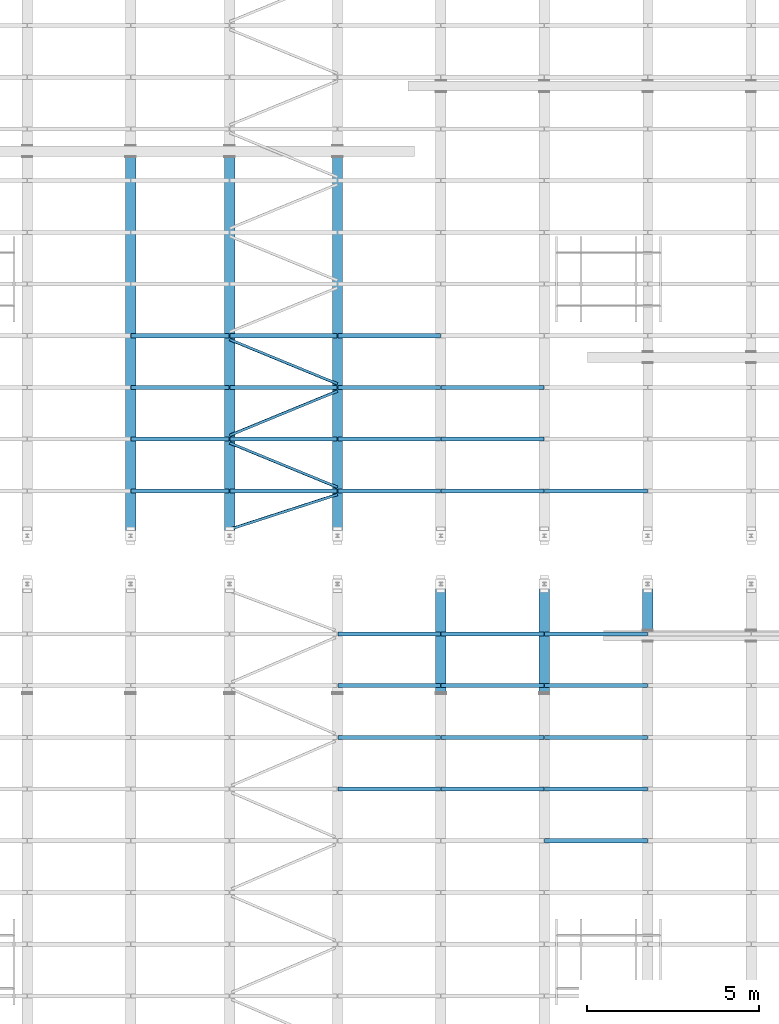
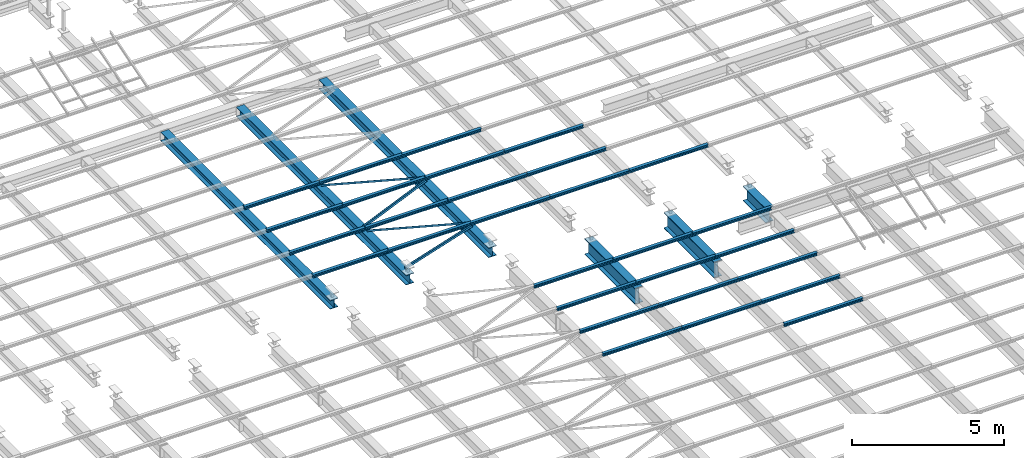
# One storey, part 58 of 139: 39 beams.
"""IFC2X3 building model written with IfcOpenShell, lengths in metres."""

from ifc_helpers import new_model, entity, si_unit, converted_unit, derived_unit, frame, origin, place, context, subcontext, project, spatial, polyline, outline, extrude, material, element, save


model = new_model("IFC2X3")

# Units and contexts
model_context = context("Model", 3, precision=1e-05, world=origin())
body_context = subcontext(model_context, "Body", "Model", "MODEL_VIEW")
ifc_project = project(units=[si_unit("LENGTHUNIT", "METRE"), si_unit("AREAUNIT", "SQUARE_METRE"), si_unit("VOLUMEUNIT", "CUBIC_METRE"), si_unit("MASSUNIT", "GRAM", prefix="KILO"), converted_unit("PLANEANGLEUNIT", "DEGREE", entity("IfcPlaneAngleMeasure", 0.0174532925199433), si_unit("PLANEANGLEUNIT", "RADIAN"), dimensions=[0, 0, 0, 0, 0, 0, 0]), derived_unit("THERMALTRANSMITTANCEUNIT", [(si_unit("POWERUNIT", "WATT"), 1), (si_unit("THERMODYNAMICTEMPERATUREUNIT", "KELVIN"), -1), (si_unit("LENGTHUNIT", "METRE"), -2)]), derived_unit("VOLUMETRICFLOWRATEUNIT", [(si_unit("LENGTHUNIT", "METRE"), 3), (converted_unit("TIMEUNIT", "hour", entity("IfcTimeMeasure", 3600.0), si_unit("TIMEUNIT", "SECOND"), dimensions=[0, 0, 1, 0, 0, 0, 0]), -1), (si_unit("LENGTHUNIT", "METRE"), -1)])], contexts=[model_context])

# Site, building, storey
site_placement = place(None, origin())
site = spatial("IfcSite", under=ifc_project, at=site_placement, Name="TWP_Speiseverteilzentrum SBW VZ II", CompositionType="ELEMENT")
building_placement = place(site_placement, origin())
building = spatial("IfcBuilding", under=site, at=building_placement, Name="Speiseverteilzentrum SBW VZ II", CompositionType="ELEMENT")
storey_placement = place(building_placement, frame((0.0, 0.0, 7.1307)))
storey = spatial("IfcBuildingStorey", under=building, at=storey_placement, Name="Wartung_FFB", CompositionType="ELEMENT", Elevation=7.1307)

# Beams
ifc_material_1 = material(Name="S235")
beam_1_placement = place(storey_placement, frame((43.0500000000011, 63.2824932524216, -0.365), z_axis=(0.0, 0.0, 1.0), x_axis=(-1.0, 0.0, 0.0)))
element("IfcBeam", 1, at=beam_1_placement, inside=storey, material=ifc_material_1, Name="Stahlträger", context=body_context, shape_type="SweptSolid", body=[
    extrude(outline(polyline([(-0.15, 0.175), (-0.15, 0.1575), (-0.00500000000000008, 0.1575), (-0.0050000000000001, -0.1575), (-0.15, -0.1575), (-0.15, -0.175), (0.15, -0.175), (0.15, -0.1575), (0.0049999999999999, -0.1575), (0.00499999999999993, 0.1575), (0.15, 0.1575), (0.15, 0.175), (-0.15, 0.175)])), frame((0.0, 0.0, 0.0), z_axis=(0.0, 1.0, 0.0), x_axis=(-1.0, 0.0, 0.0)), (0.0, 0.0, 1.0), 11.1324932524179),
])
ifc_material_2 = material(Name="S235")
beam_2_placement = place(storey_placement, frame((49.0500000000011, 52.1500000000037, -0.385), z_axis=(0.0, 0.0, 1.0), x_axis=(1.0, -2.44929359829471e-16, 0.0)))
element("IfcBeam", 2, at=beam_2_placement, inside=storey, material=ifc_material_2, Name="Stahlträger", context=body_context, shape_type="SweptSolid", body=[
    extrude(outline(polyline([(-0.15, 0.195), (-0.15, 0.176), (-0.00550000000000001, 0.176), (-0.00550000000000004, -0.176), (-0.15, -0.176), (-0.15, -0.195), (0.15, -0.195), (0.15, -0.176), (0.00549999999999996, -0.176), (0.00549999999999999, 0.176), (0.15, 0.176), (0.15, 0.195), (-0.15, 0.195)])), frame((0.0, 0.0, 0.0), z_axis=(0.0, 1.0, 0.0), x_axis=(-1.0, 0.0, 0.0)), (0.0, 0.0, 1.0), 11.1324932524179),
])
ifc_material_3 = material(Name="S235")
beam_3_placement = place(storey_placement, frame((45.9200000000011, 52.1500000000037, -0.385), z_axis=(0.0, 0.0, 1.0), x_axis=(1.0, -2.44929359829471e-16, 0.0)))
element("IfcBeam", 3, at=beam_3_placement, inside=storey, material=ifc_material_3, Name="Stahlträger", context=body_context, shape_type="SweptSolid", body=[
    extrude(outline(polyline([(-0.15, 0.195), (-0.15, 0.176), (-0.00550000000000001, 0.176), (-0.00550000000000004, -0.176), (-0.15, -0.176), (-0.15, -0.195), (0.15, -0.195), (0.15, -0.176), (0.00549999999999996, -0.176), (0.00549999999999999, 0.176), (0.15, 0.176), (0.15, 0.195), (-0.15, 0.195)])), frame((0.0, 0.0, 0.0), z_axis=(0.0, 1.0, 0.0), x_axis=(-1.0, 0.0, 0.0)), (0.0, 0.0, 1.0), 11.1324932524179),
])
ifc_material_4 = material(Name="S235")
beam_4_placement = place(storey_placement, frame((52.0500000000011, 51.0500000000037, -0.51), z_axis=(0.0, 0.0, 1.0), x_axis=(-1.0, 0.0, 0.0)))
element("IfcBeam", 4, at=beam_4_placement, inside=storey, material=ifc_material_4, Name="Stahlträger", context=body_context, shape_type="SweptSolid", body=[
    extrude(outline(polyline([(-0.15, 0.32), (-0.15, 0.294), (-0.00675000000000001, 0.294), (-0.00675000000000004, -0.294), (-0.15, -0.294), (-0.15, -0.32), (0.15, -0.32), (0.15, -0.294), (0.00674999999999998, -0.294), (0.00675000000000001, 0.294), (0.15, 0.294), (0.15, 0.32), (-0.15, 0.32)])), frame((0.0, 0.0, 0.0), z_axis=(0.0, 1.0, 0.0), x_axis=(-1.0, 0.0, 0.0)), (0.0, 0.0, 1.0), 3.2979257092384),
])
ifc_material_5 = material(Name="S235")
beam_5_placement = place(storey_placement, frame((55.0500000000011, 51.0500000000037, -0.51), z_axis=(0.0, 0.0, 1.0), x_axis=(-1.0, 0.0, 0.0)))
element("IfcBeam", 5, at=beam_5_placement, inside=storey, material=ifc_material_5, Name="Stahlträger", context=body_context, shape_type="SweptSolid", body=[
    extrude(outline(polyline([(-0.15, 0.32), (-0.15, 0.294), (-0.00675000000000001, 0.294), (-0.00675000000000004, -0.294), (-0.15, -0.294), (-0.15, -0.32), (0.15, -0.32), (0.15, -0.294), (0.00674999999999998, -0.294), (0.00675000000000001, 0.294), (0.15, 0.294), (0.15, 0.32), (-0.15, 0.32)])), frame((0.0, 0.0, 0.0), z_axis=(0.0, 1.0, 0.0), x_axis=(-1.0, 0.0, 0.0)), (0.0, 0.0, 1.0), 3.2979257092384),
])
ifc_material_6 = material(Name="S235")
beam_6_placement = place(storey_placement, frame((58.0500000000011, 51.0500000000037, -0.485), z_axis=(0.0, 0.0, 1.0), x_axis=(-1.0, 0.0, 0.0)))
element("IfcBeam", 6, at=beam_6_placement, inside=storey, material=ifc_material_6, Name="Stahlträger", context=body_context, shape_type="SweptSolid", body=[
    extrude(outline(polyline([(-0.15, 0.295), (-0.15, 0.27), (-0.0065, 0.27), (-0.00650000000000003, -0.27), (-0.15, -0.27), (-0.15, -0.295), (0.15, -0.295), (0.15, -0.27), (0.00649999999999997, -0.27), (0.00650000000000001, 0.27), (0.15, 0.27), (0.15, 0.295), (-0.15, 0.295)])), frame((0.0, 0.0, 0.0), z_axis=(0.0, 1.0, 0.0), x_axis=(-1.0, 0.0, 0.0)), (0.0, 0.0, 1.0), 1.47527922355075),
])
ifc_material_7 = material(Name="S235")
beam_7_placement = place(storey_placement, frame((49.0600000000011, 58.1011263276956, -0.133), z_axis=(0.0, 0.0, 1.0), x_axis=(0.0, -1.0, 0.0)))
element("IfcBeam", 7, at=beam_7_placement, inside=storey, material=ifc_material_7, Name="Nebenträger", context=body_context, shape_type="SweptSolid", body=[
    extrude(outline(polyline([(-0.06, 0.0570000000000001), (-0.06, 0.0490000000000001), (-0.00249999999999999, 0.0490000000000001), (-0.0025, -0.0489999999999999), (-0.06, -0.0489999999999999), (-0.06, -0.0569999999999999), (0.06, -0.0569999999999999), (0.06, -0.0489999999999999), (0.0025, -0.0489999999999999), (0.00250000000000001, 0.0490000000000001), (0.06, 0.0490000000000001), (0.06, 0.0570000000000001), (-0.06, 0.0570000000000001)])), frame((0.0, 0.0, 0.0), z_axis=(0.0, 1.0, 0.0), x_axis=(-1.0, 0.0, 0.0)), (0.0, 0.0, 1.0), 2.98),
])
ifc_material_8 = material(Name="S235")
beam_8_placement = place(storey_placement, frame((49.0600000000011, 56.6011263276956, -0.133), z_axis=(0.0, 0.0, 1.0), x_axis=(0.0, -1.0, 0.0)))
element("IfcBeam", 8, at=beam_8_placement, inside=storey, material=ifc_material_8, Name="Nebenträger", context=body_context, shape_type="SweptSolid", body=[
    extrude(outline(polyline([(-0.06, 0.0570000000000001), (-0.06, 0.0490000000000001), (-0.00249999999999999, 0.0490000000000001), (-0.0025, -0.0489999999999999), (-0.06, -0.0489999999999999), (-0.06, -0.0569999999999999), (0.06, -0.0569999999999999), (0.06, -0.0489999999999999), (0.0025, -0.0489999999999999), (0.00250000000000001, 0.0490000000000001), (0.06, 0.0490000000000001), (0.06, 0.0570000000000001), (-0.06, 0.0570000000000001)])), frame((0.0, 0.0, 0.0), z_axis=(0.0, 1.0, 0.0), x_axis=(-1.0, 0.0, 0.0)), (0.0, 0.0, 1.0), 2.98),
])
ifc_material_9 = material(Name="S235")
beam_9_placement = place(storey_placement, frame((52.0600000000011, 56.6011263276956, -0.133), z_axis=(0.0, 0.0, 1.0), x_axis=(0.0, -1.0, 0.0)))
element("IfcBeam", 9, at=beam_9_placement, inside=storey, material=ifc_material_9, Name="Nebenträger", context=body_context, shape_type="SweptSolid", body=[
    extrude(outline(polyline([(-0.06, 0.0570000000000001), (-0.06, 0.0490000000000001), (-0.00249999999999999, 0.0490000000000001), (-0.0025, -0.0489999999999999), (-0.06, -0.0489999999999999), (-0.06, -0.0569999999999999), (0.06, -0.0569999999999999), (0.06, -0.0489999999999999), (0.0025, -0.0489999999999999), (0.00250000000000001, 0.0490000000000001), (0.06, 0.0490000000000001), (0.06, 0.0570000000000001), (-0.06, 0.0570000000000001)])), frame((0.0, 0.0, 0.0), z_axis=(0.0, 1.0, 0.0), x_axis=(-1.0, 0.0, 0.0)), (0.0, 0.0, 1.0), 2.98),
])
ifc_material_10 = material(Name="S235")
beam_10_placement = place(storey_placement, frame((49.0600000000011, 55.1011263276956, -0.133), z_axis=(0.0, 0.0, 1.0), x_axis=(0.0, -1.0, 0.0)))
element("IfcBeam", 10, at=beam_10_placement, inside=storey, material=ifc_material_10, Name="Nebenträger", context=body_context, shape_type="SweptSolid", body=[
    extrude(outline(polyline([(-0.06, 0.0570000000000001), (-0.06, 0.0490000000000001), (-0.00249999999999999, 0.0490000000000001), (-0.0025, -0.0489999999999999), (-0.06, -0.0489999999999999), (-0.06, -0.0569999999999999), (0.06, -0.0569999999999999), (0.06, -0.0489999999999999), (0.0025, -0.0489999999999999), (0.00250000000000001, 0.0490000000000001), (0.06, 0.0490000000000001), (0.06, 0.0570000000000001), (-0.06, 0.0570000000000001)])), frame((0.0, 0.0, 0.0), z_axis=(0.0, 1.0, 0.0), x_axis=(-1.0, 0.0, 0.0)), (0.0, 0.0, 1.0), 2.98),
])
ifc_material_11 = material(Name="S235")
beam_11_placement = place(storey_placement, frame((52.0600000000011, 55.1011263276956, -0.133), z_axis=(0.0, 0.0, 1.0), x_axis=(0.0, -1.0, 0.0)))
element("IfcBeam", 11, at=beam_11_placement, inside=storey, material=ifc_material_11, Name="Nebenträger", context=body_context, shape_type="SweptSolid", body=[
    extrude(outline(polyline([(-0.06, 0.0570000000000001), (-0.06, 0.0490000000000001), (-0.00249999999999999, 0.0490000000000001), (-0.0025, -0.0489999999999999), (-0.06, -0.0489999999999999), (-0.06, -0.0569999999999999), (0.06, -0.0569999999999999), (0.06, -0.0489999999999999), (0.0025, -0.0489999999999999), (0.00250000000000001, 0.0490000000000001), (0.06, 0.0490000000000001), (0.06, 0.0570000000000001), (-0.06, 0.0570000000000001)])), frame((0.0, 0.0, 0.0), z_axis=(0.0, 1.0, 0.0), x_axis=(-1.0, 0.0, 0.0)), (0.0, 0.0, 1.0), 2.98),
])
ifc_material_12 = material(Name="S235")
beam_12_placement = place(storey_placement, frame((49.0600000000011, 53.6011263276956, -0.133), z_axis=(0.0, 0.0, 1.0), x_axis=(0.0, -1.0, 0.0)))
element("IfcBeam", 12, at=beam_12_placement, inside=storey, material=ifc_material_12, Name="Nebenträger", context=body_context, shape_type="SweptSolid", body=[
    extrude(outline(polyline([(-0.06, 0.0570000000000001), (-0.06, 0.0490000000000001), (-0.00249999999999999, 0.0490000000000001), (-0.0025, -0.0489999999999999), (-0.06, -0.0489999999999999), (-0.06, -0.0569999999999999), (0.06, -0.0569999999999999), (0.06, -0.0489999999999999), (0.0025, -0.0489999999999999), (0.00250000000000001, 0.0490000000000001), (0.06, 0.0490000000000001), (0.06, 0.0570000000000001), (-0.06, 0.0570000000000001)])), frame((0.0, 0.0, 0.0), z_axis=(0.0, 1.0, 0.0), x_axis=(-1.0, 0.0, 0.0)), (0.0, 0.0, 1.0), 2.98),
])
ifc_material_13 = material(Name="S235")
beam_13_placement = place(storey_placement, frame((52.0600000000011, 53.6011263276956, -0.133), z_axis=(0.0, 0.0, 1.0), x_axis=(0.0, -1.0, 0.0)))
element("IfcBeam", 13, at=beam_13_placement, inside=storey, material=ifc_material_13, Name="Nebenträger", context=body_context, shape_type="SweptSolid", body=[
    extrude(outline(polyline([(-0.06, 0.0570000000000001), (-0.06, 0.0490000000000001), (-0.00249999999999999, 0.0490000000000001), (-0.0025, -0.0489999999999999), (-0.06, -0.0489999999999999), (-0.06, -0.0569999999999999), (0.06, -0.0569999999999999), (0.06, -0.0489999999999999), (0.0025, -0.0489999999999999), (0.00250000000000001, 0.0490000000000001), (0.06, 0.0490000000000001), (0.06, 0.0570000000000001), (-0.06, 0.0570000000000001)])), frame((0.0, 0.0, 0.0), z_axis=(0.0, 1.0, 0.0), x_axis=(-1.0, 0.0, 0.0)), (0.0, 0.0, 1.0), 2.98),
])
ifc_material_14 = material(Name="S235")
beam_14_placement = place(storey_placement, frame((55.0600000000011, 53.6011263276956, -0.133), z_axis=(0.0, 0.0, 1.0), x_axis=(0.0, -1.0, 0.0)))
element("IfcBeam", 14, at=beam_14_placement, inside=storey, material=ifc_material_14, Name="Nebenträger", context=body_context, shape_type="SweptSolid", body=[
    extrude(outline(polyline([(-0.06, 0.0570000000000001), (-0.06, 0.0490000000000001), (-0.00249999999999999, 0.0490000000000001), (-0.0025, -0.0489999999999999), (-0.06, -0.0489999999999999), (-0.06, -0.0569999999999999), (0.06, -0.0569999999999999), (0.06, -0.0489999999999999), (0.0025, -0.0489999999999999), (0.00250000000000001, 0.0490000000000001), (0.06, 0.0490000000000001), (0.06, 0.0570000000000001), (-0.06, 0.0570000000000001)])), frame((0.0, 0.0, 0.0), z_axis=(0.0, 1.0, 0.0), x_axis=(-1.0, 0.0, 0.0)), (0.0, 0.0, 1.0), 2.98),
])
ifc_material_15 = material(Name="S235")
beam_15_placement = place(storey_placement, frame((49.0600000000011, 49.4500000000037, -0.133), z_axis=(0.0, 0.0, 1.0), x_axis=(0.0, -1.0, 0.0)))
element("IfcBeam", 15, at=beam_15_placement, inside=storey, material=ifc_material_15, Name="Nebenträger", context=body_context, shape_type="SweptSolid", body=[
    extrude(outline(polyline([(-0.06, 0.0570000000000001), (-0.06, 0.0490000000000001), (-0.00249999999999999, 0.0490000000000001), (-0.0025, -0.0489999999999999), (-0.06, -0.0489999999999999), (-0.06, -0.0569999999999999), (0.06, -0.0569999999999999), (0.06, -0.0489999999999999), (0.0025, -0.0489999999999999), (0.00250000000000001, 0.0490000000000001), (0.06, 0.0490000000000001), (0.06, 0.0570000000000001), (-0.06, 0.0570000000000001)])), frame((0.0, 0.0, 0.0), z_axis=(0.0, 1.0, 0.0), x_axis=(-1.0, 0.0, 0.0)), (0.0, 0.0, 1.0), 2.98),
])
ifc_material_16 = material(Name="S235")
beam_16_placement = place(storey_placement, frame((52.0600000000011, 49.4500000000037, -0.133), z_axis=(0.0, 0.0, 1.0), x_axis=(0.0, -1.0, 0.0)))
element("IfcBeam", 16, at=beam_16_placement, inside=storey, material=ifc_material_16, Name="Nebenträger", context=body_context, shape_type="SweptSolid", body=[
    extrude(outline(polyline([(-0.06, 0.0570000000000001), (-0.06, 0.0490000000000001), (-0.00249999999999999, 0.0490000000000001), (-0.0025, -0.0489999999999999), (-0.06, -0.0489999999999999), (-0.06, -0.0569999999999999), (0.06, -0.0569999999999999), (0.06, -0.0489999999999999), (0.0025, -0.0489999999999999), (0.00250000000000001, 0.0490000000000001), (0.06, 0.0490000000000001), (0.06, 0.0570000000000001), (-0.06, 0.0570000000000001)])), frame((0.0, 0.0, 0.0), z_axis=(0.0, 1.0, 0.0), x_axis=(-1.0, 0.0, 0.0)), (0.0, 0.0, 1.0), 2.98),
])
ifc_material_17 = material(Name="S235")
beam_17_placement = place(storey_placement, frame((55.0600000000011, 49.4500000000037, -0.133), z_axis=(0.0, 0.0, 1.0), x_axis=(0.0, -1.0, 0.0)))
element("IfcBeam", 17, at=beam_17_placement, inside=storey, material=ifc_material_17, Name="Nebenträger", context=body_context, shape_type="SweptSolid", body=[
    extrude(outline(polyline([(-0.06, 0.0570000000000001), (-0.06, 0.0490000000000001), (-0.00249999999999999, 0.0490000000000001), (-0.0025, -0.0489999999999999), (-0.06, -0.0489999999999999), (-0.06, -0.0569999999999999), (0.06, -0.0569999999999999), (0.06, -0.0489999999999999), (0.0025, -0.0489999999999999), (0.00250000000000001, 0.0490000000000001), (0.06, 0.0490000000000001), (0.06, 0.0570000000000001), (-0.06, 0.0570000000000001)])), frame((0.0, 0.0, 0.0), z_axis=(0.0, 1.0, 0.0), x_axis=(-1.0, 0.0, 0.0)), (0.0, 0.0, 1.0), 2.98),
])
ifc_material_18 = material(Name="S235")
beam_18_placement = place(storey_placement, frame((49.0600000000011, 47.9500000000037, -0.133), z_axis=(0.0, 0.0, 1.0), x_axis=(0.0, -1.0, 0.0)))
element("IfcBeam", 18, at=beam_18_placement, inside=storey, material=ifc_material_18, Name="Nebenträger", context=body_context, shape_type="SweptSolid", body=[
    extrude(outline(polyline([(-0.06, 0.0570000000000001), (-0.06, 0.0490000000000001), (-0.00249999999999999, 0.0490000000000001), (-0.0025, -0.0489999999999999), (-0.06, -0.0489999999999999), (-0.06, -0.0569999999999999), (0.06, -0.0569999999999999), (0.06, -0.0489999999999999), (0.0025, -0.0489999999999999), (0.00250000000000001, 0.0490000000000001), (0.06, 0.0490000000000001), (0.06, 0.0570000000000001), (-0.06, 0.0570000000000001)])), frame((0.0, 0.0, 0.0), z_axis=(0.0, 1.0, 0.0), x_axis=(-1.0, 0.0, 0.0)), (0.0, 0.0, 1.0), 2.98),
])
ifc_material_19 = material(Name="S235")
beam_19_placement = place(storey_placement, frame((52.0600000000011, 47.9500000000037, -0.133), z_axis=(0.0, 0.0, 1.0), x_axis=(0.0, -1.0, 0.0)))
element("IfcBeam", 19, at=beam_19_placement, inside=storey, material=ifc_material_19, Name="Nebenträger", context=body_context, shape_type="SweptSolid", body=[
    extrude(outline(polyline([(-0.06, 0.0570000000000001), (-0.06, 0.0490000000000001), (-0.00249999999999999, 0.0490000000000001), (-0.0025, -0.0489999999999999), (-0.06, -0.0489999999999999), (-0.06, -0.0569999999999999), (0.06, -0.0569999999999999), (0.06, -0.0489999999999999), (0.0025, -0.0489999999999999), (0.00250000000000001, 0.0490000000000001), (0.06, 0.0490000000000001), (0.06, 0.0570000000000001), (-0.06, 0.0570000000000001)])), frame((0.0, 0.0, 0.0), z_axis=(0.0, 1.0, 0.0), x_axis=(-1.0, 0.0, 0.0)), (0.0, 0.0, 1.0), 2.98),
])
ifc_material_20 = material(Name="S235")
beam_20_placement = place(storey_placement, frame((55.0600000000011, 47.9500000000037, -0.133), z_axis=(0.0, 0.0, 1.0), x_axis=(0.0, -1.0, 0.0)))
element("IfcBeam", 20, at=beam_20_placement, inside=storey, material=ifc_material_20, Name="Nebenträger", context=body_context, shape_type="SweptSolid", body=[
    extrude(outline(polyline([(-0.06, 0.0570000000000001), (-0.06, 0.0490000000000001), (-0.00249999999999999, 0.0490000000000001), (-0.0025, -0.0489999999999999), (-0.06, -0.0489999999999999), (-0.06, -0.0569999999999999), (0.06, -0.0569999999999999), (0.06, -0.0489999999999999), (0.0025, -0.0489999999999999), (0.00250000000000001, 0.0490000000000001), (0.06, 0.0490000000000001), (0.06, 0.0570000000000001), (-0.06, 0.0570000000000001)])), frame((0.0, 0.0, 0.0), z_axis=(0.0, 1.0, 0.0), x_axis=(-1.0, 0.0, 0.0)), (0.0, 0.0, 1.0), 2.98),
])
ifc_material_21 = material(Name="S235")
beam_21_placement = place(storey_placement, frame((49.0600000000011, 46.4500000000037, -0.133), z_axis=(0.0, 0.0, 1.0), x_axis=(0.0, -1.0, 0.0)))
element("IfcBeam", 21, at=beam_21_placement, inside=storey, material=ifc_material_21, Name="Nebenträger", context=body_context, shape_type="SweptSolid", body=[
    extrude(outline(polyline([(-0.06, 0.0570000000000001), (-0.06, 0.0490000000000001), (-0.00249999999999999, 0.0490000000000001), (-0.0025, -0.0489999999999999), (-0.06, -0.0489999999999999), (-0.06, -0.0569999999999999), (0.06, -0.0569999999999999), (0.06, -0.0489999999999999), (0.0025, -0.0489999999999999), (0.00250000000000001, 0.0490000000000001), (0.06, 0.0490000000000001), (0.06, 0.0570000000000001), (-0.06, 0.0570000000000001)])), frame((0.0, 0.0, 0.0), z_axis=(0.0, 1.0, 0.0), x_axis=(-1.0, 0.0, 0.0)), (0.0, 0.0, 1.0), 2.98),
])
ifc_material_22 = material(Name="S235")
beam_22_placement = place(storey_placement, frame((52.0600000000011, 46.4500000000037, -0.133), z_axis=(0.0, 0.0, 1.0), x_axis=(0.0, -1.0, 0.0)))
element("IfcBeam", 22, at=beam_22_placement, inside=storey, material=ifc_material_22, Name="Nebenträger", context=body_context, shape_type="SweptSolid", body=[
    extrude(outline(polyline([(-0.06, 0.0570000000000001), (-0.06, 0.0490000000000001), (-0.00249999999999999, 0.0490000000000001), (-0.0025, -0.0489999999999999), (-0.06, -0.0489999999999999), (-0.06, -0.0569999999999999), (0.06, -0.0569999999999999), (0.06, -0.0489999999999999), (0.0025, -0.0489999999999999), (0.00250000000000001, 0.0490000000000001), (0.06, 0.0490000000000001), (0.06, 0.0570000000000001), (-0.06, 0.0570000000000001)])), frame((0.0, 0.0, 0.0), z_axis=(0.0, 1.0, 0.0), x_axis=(-1.0, 0.0, 0.0)), (0.0, 0.0, 1.0), 2.98),
])
ifc_material_23 = material(Name="S235")
beam_23_placement = place(storey_placement, frame((55.0600000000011, 46.4500000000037, -0.133), z_axis=(0.0, 0.0, 1.0), x_axis=(0.0, -1.0, 0.0)))
element("IfcBeam", 23, at=beam_23_placement, inside=storey, material=ifc_material_23, Name="Nebenträger", context=body_context, shape_type="SweptSolid", body=[
    extrude(outline(polyline([(-0.06, 0.0570000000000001), (-0.06, 0.0490000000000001), (-0.00249999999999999, 0.0490000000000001), (-0.0025, -0.0489999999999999), (-0.06, -0.0489999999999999), (-0.06, -0.0569999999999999), (0.06, -0.0569999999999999), (0.06, -0.0489999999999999), (0.0025, -0.0489999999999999), (0.00250000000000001, 0.0490000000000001), (0.06, 0.0490000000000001), (0.06, 0.0570000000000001), (-0.06, 0.0570000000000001)])), frame((0.0, 0.0, 0.0), z_axis=(0.0, 1.0, 0.0), x_axis=(-1.0, 0.0, 0.0)), (0.0, 0.0, 1.0), 2.98),
])
ifc_material_24 = material(Name="S235")
beam_24_placement = place(storey_placement, frame((49.0600000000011, 44.9500000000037, -0.133), z_axis=(0.0, 0.0, 1.0), x_axis=(0.0, -1.0, 0.0)))
element("IfcBeam", 24, at=beam_24_placement, inside=storey, material=ifc_material_24, Name="Nebenträger", context=body_context, shape_type="SweptSolid", body=[
    extrude(outline(polyline([(-0.06, 0.0570000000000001), (-0.06, 0.0490000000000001), (-0.00249999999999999, 0.0490000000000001), (-0.0025, -0.0489999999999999), (-0.06, -0.0489999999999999), (-0.06, -0.0569999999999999), (0.06, -0.0569999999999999), (0.06, -0.0489999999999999), (0.0025, -0.0489999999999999), (0.00250000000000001, 0.0490000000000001), (0.06, 0.0490000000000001), (0.06, 0.0570000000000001), (-0.06, 0.0570000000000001)])), frame((0.0, 0.0, 0.0), z_axis=(0.0, 1.0, 0.0), x_axis=(-1.0, 0.0, 0.0)), (0.0, 0.0, 1.0), 2.98),
])
ifc_material_25 = material(Name="S235")
beam_25_placement = place(storey_placement, frame((52.0600000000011, 44.9500000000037, -0.133), z_axis=(0.0, 0.0, 1.0), x_axis=(0.0, -1.0, 0.0)))
element("IfcBeam", 25, at=beam_25_placement, inside=storey, material=ifc_material_25, Name="Nebenträger", context=body_context, shape_type="SweptSolid", body=[
    extrude(outline(polyline([(-0.06, 0.0570000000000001), (-0.06, 0.0490000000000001), (-0.00249999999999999, 0.0490000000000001), (-0.0025, -0.0489999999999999), (-0.06, -0.0489999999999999), (-0.06, -0.0569999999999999), (0.06, -0.0569999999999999), (0.06, -0.0489999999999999), (0.0025, -0.0489999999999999), (0.00250000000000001, 0.0490000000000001), (0.06, 0.0490000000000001), (0.06, 0.0570000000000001), (-0.06, 0.0570000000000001)])), frame((0.0, 0.0, 0.0), z_axis=(0.0, 1.0, 0.0), x_axis=(-1.0, 0.0, 0.0)), (0.0, 0.0, 1.0), 2.98),
])
ifc_material_26 = material(Name="S235")
beam_26_placement = place(storey_placement, frame((55.0600000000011, 44.9500000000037, -0.133), z_axis=(0.0, 0.0, 1.0), x_axis=(0.0, -1.0, 0.0)))
element("IfcBeam", 26, at=beam_26_placement, inside=storey, material=ifc_material_26, Name="Nebenträger", context=body_context, shape_type="SweptSolid", body=[
    extrude(outline(polyline([(-0.06, 0.0570000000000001), (-0.06, 0.0490000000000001), (-0.00249999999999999, 0.0490000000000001), (-0.0025, -0.0489999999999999), (-0.06, -0.0489999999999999), (-0.06, -0.0569999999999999), (0.06, -0.0569999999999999), (0.06, -0.0489999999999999), (0.0025, -0.0489999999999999), (0.00250000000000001, 0.0490000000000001), (0.06, 0.0490000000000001), (0.06, 0.0570000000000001), (-0.06, 0.0570000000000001)])), frame((0.0, 0.0, 0.0), z_axis=(0.0, 1.0, 0.0), x_axis=(-1.0, 0.0, 0.0)), (0.0, 0.0, 1.0), 2.98),
])
ifc_material_27 = material(Name="S235")
beam_27_placement = place(storey_placement, frame((55.0600000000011, 43.4500000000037, -0.133), z_axis=(0.0, 0.0, 1.0), x_axis=(0.0, -1.0, 0.0)))
element("IfcBeam", 27, at=beam_27_placement, inside=storey, material=ifc_material_27, Name="Nebenträger", context=body_context, shape_type="SweptSolid", body=[
    extrude(outline(polyline([(-0.06, 0.0570000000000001), (-0.06, 0.0490000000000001), (-0.00249999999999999, 0.0490000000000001), (-0.0025, -0.0489999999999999), (-0.06, -0.0489999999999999), (-0.06, -0.0569999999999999), (0.06, -0.0569999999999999), (0.06, -0.0489999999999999), (0.0025, -0.0489999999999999), (0.00250000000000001, 0.0490000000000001), (0.06, 0.0490000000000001), (0.06, 0.0570000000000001), (-0.06, 0.0570000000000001)])), frame((0.0, 0.0, 0.0), z_axis=(0.0, 1.0, 0.0), x_axis=(-1.0, 0.0, 0.0)), (0.0, 0.0, 1.0), 2.98),
])
ifc_material_28 = material(Name="S235")
beam_28_placement = place(storey_placement, frame((43.0600000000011, 58.1011263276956, -0.133), z_axis=(0.0, 0.0, 1.0), x_axis=(0.0, -1.0, 0.0)))
element("IfcBeam", 28, at=beam_28_placement, inside=storey, material=ifc_material_28, Name="Nebenträger", context=body_context, shape_type="SweptSolid", body=[
    extrude(outline(polyline([(-0.06, 0.0570000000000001), (-0.06, 0.0490000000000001), (-0.00249999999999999, 0.0490000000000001), (-0.0025, -0.0489999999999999), (-0.06, -0.0489999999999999), (-0.06, -0.0569999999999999), (0.06, -0.0569999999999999), (0.06, -0.0489999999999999), (0.0025, -0.0489999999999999), (0.00250000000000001, 0.0490000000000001), (0.06, 0.0490000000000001), (0.06, 0.0570000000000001), (-0.06, 0.0570000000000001)])), frame((0.0, 0.0, 0.0), z_axis=(0.0, 1.0, 0.0), x_axis=(-1.0, 0.0, 0.0)), (0.0, 0.0, 1.0), 2.85),
])
ifc_material_29 = material(Name="S235")
beam_29_placement = place(storey_placement, frame((45.9300000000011, 58.1011263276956, -0.133), z_axis=(0.0, 0.0, 1.0), x_axis=(0.0, -1.0, 0.0)))
element("IfcBeam", 29, at=beam_29_placement, inside=storey, material=ifc_material_29, Name="Nebenträger", context=body_context, shape_type="SweptSolid", body=[
    extrude(outline(polyline([(-0.06, 0.0570000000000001), (-0.06, 0.0490000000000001), (-0.00249999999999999, 0.0490000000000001), (-0.0025, -0.0489999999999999), (-0.06, -0.0489999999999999), (-0.06, -0.0569999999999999), (0.06, -0.0569999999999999), (0.06, -0.0489999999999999), (0.0025, -0.0489999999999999), (0.00250000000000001, 0.0490000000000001), (0.06, 0.0490000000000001), (0.06, 0.0570000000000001), (-0.06, 0.0570000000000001)])), frame((0.0, 0.0, 0.0), z_axis=(0.0, 1.0, 0.0), x_axis=(-1.0, 0.0, 0.0)), (0.0, 0.0, 1.0), 3.11),
])
ifc_material_30 = material(Name="S235")
beam_30_placement = place(storey_placement, frame((43.0600000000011, 56.6011263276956, -0.133), z_axis=(0.0, 0.0, 1.0), x_axis=(0.0, -1.0, 0.0)))
element("IfcBeam", 30, at=beam_30_placement, inside=storey, material=ifc_material_30, Name="Nebenträger", context=body_context, shape_type="SweptSolid", body=[
    extrude(outline(polyline([(-0.06, 0.0570000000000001), (-0.06, 0.0490000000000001), (-0.00249999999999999, 0.0490000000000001), (-0.0025, -0.0489999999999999), (-0.06, -0.0489999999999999), (-0.06, -0.0569999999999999), (0.06, -0.0569999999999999), (0.06, -0.0489999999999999), (0.0025, -0.0489999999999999), (0.00250000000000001, 0.0490000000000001), (0.06, 0.0490000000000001), (0.06, 0.0570000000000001), (-0.06, 0.0570000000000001)])), frame((0.0, 0.0, 0.0), z_axis=(0.0, 1.0, 0.0), x_axis=(-1.0, 0.0, 0.0)), (0.0, 0.0, 1.0), 2.85),
])
ifc_material_31 = material(Name="S235")
beam_31_placement = place(storey_placement, frame((45.9300000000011, 56.6011263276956, -0.133), z_axis=(0.0, 0.0, 1.0), x_axis=(0.0, -1.0, 0.0)))
element("IfcBeam", 31, at=beam_31_placement, inside=storey, material=ifc_material_31, Name="Nebenträger", context=body_context, shape_type="SweptSolid", body=[
    extrude(outline(polyline([(-0.06, 0.0570000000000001), (-0.06, 0.0490000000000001), (-0.00249999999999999, 0.0490000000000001), (-0.0025, -0.0489999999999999), (-0.06, -0.0489999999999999), (-0.06, -0.0569999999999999), (0.06, -0.0569999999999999), (0.06, -0.0489999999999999), (0.0025, -0.0489999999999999), (0.00250000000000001, 0.0490000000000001), (0.06, 0.0490000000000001), (0.06, 0.0570000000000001), (-0.06, 0.0570000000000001)])), frame((0.0, 0.0, 0.0), z_axis=(0.0, 1.0, 0.0), x_axis=(-1.0, 0.0, 0.0)), (0.0, 0.0, 1.0), 3.11),
])
ifc_material_32 = material(Name="S235")
beam_32_placement = place(storey_placement, frame((43.0600000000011, 55.1011263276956, -0.133), z_axis=(0.0, 0.0, 1.0), x_axis=(0.0, -1.0, 0.0)))
element("IfcBeam", 32, at=beam_32_placement, inside=storey, material=ifc_material_32, Name="Nebenträger", context=body_context, shape_type="SweptSolid", body=[
    extrude(outline(polyline([(-0.06, 0.0570000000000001), (-0.06, 0.0490000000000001), (-0.00249999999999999, 0.0490000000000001), (-0.0025, -0.0489999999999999), (-0.06, -0.0489999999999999), (-0.06, -0.0569999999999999), (0.06, -0.0569999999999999), (0.06, -0.0489999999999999), (0.0025, -0.0489999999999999), (0.00250000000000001, 0.0490000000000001), (0.06, 0.0490000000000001), (0.06, 0.0570000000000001), (-0.06, 0.0570000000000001)])), frame((0.0, 0.0, 0.0), z_axis=(0.0, 1.0, 0.0), x_axis=(-1.0, 0.0, 0.0)), (0.0, 0.0, 1.0), 2.85),
])
ifc_material_33 = material(Name="S235")
beam_33_placement = place(storey_placement, frame((45.9300000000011, 55.1011263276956, -0.133), z_axis=(0.0, 0.0, 1.0), x_axis=(0.0, -1.0, 0.0)))
element("IfcBeam", 33, at=beam_33_placement, inside=storey, material=ifc_material_33, Name="Nebenträger", context=body_context, shape_type="SweptSolid", body=[
    extrude(outline(polyline([(-0.06, 0.0570000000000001), (-0.06, 0.0490000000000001), (-0.00249999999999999, 0.0490000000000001), (-0.0025, -0.0489999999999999), (-0.06, -0.0489999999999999), (-0.06, -0.0569999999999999), (0.06, -0.0569999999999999), (0.06, -0.0489999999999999), (0.0025, -0.0489999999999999), (0.00250000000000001, 0.0490000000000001), (0.06, 0.0490000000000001), (0.06, 0.0570000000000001), (-0.06, 0.0570000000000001)])), frame((0.0, 0.0, 0.0), z_axis=(0.0, 1.0, 0.0), x_axis=(-1.0, 0.0, 0.0)), (0.0, 0.0, 1.0), 3.11),
])
ifc_material_34 = material(Name="S235")
beam_34_placement = place(storey_placement, frame((43.0600000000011, 53.6011263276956, -0.133), z_axis=(0.0, 0.0, 1.0), x_axis=(0.0, -1.0, 0.0)))
element("IfcBeam", 34, at=beam_34_placement, inside=storey, material=ifc_material_34, Name="Nebenträger", context=body_context, shape_type="SweptSolid", body=[
    extrude(outline(polyline([(-0.06, 0.0570000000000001), (-0.06, 0.0490000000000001), (-0.00249999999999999, 0.0490000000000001), (-0.0025, -0.0489999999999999), (-0.06, -0.0489999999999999), (-0.06, -0.0569999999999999), (0.06, -0.0569999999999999), (0.06, -0.0489999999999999), (0.0025, -0.0489999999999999), (0.00250000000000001, 0.0490000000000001), (0.06, 0.0490000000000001), (0.06, 0.0570000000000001), (-0.06, 0.0570000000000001)])), frame((0.0, 0.0, 0.0), z_axis=(0.0, 1.0, 0.0), x_axis=(-1.0, 0.0, 0.0)), (0.0, 0.0, 1.0), 2.85),
])
ifc_material_35 = material(Name="S235")
beam_35_placement = place(storey_placement, frame((45.9300000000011, 53.6011263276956, -0.133), z_axis=(0.0, 0.0, 1.0), x_axis=(0.0, -1.0, 0.0)))
element("IfcBeam", 35, at=beam_35_placement, inside=storey, material=ifc_material_35, Name="Nebenträger", context=body_context, shape_type="SweptSolid", body=[
    extrude(outline(polyline([(-0.06, 0.0570000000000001), (-0.06, 0.0490000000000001), (-0.00249999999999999, 0.0490000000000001), (-0.0025, -0.0489999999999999), (-0.06, -0.0489999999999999), (-0.06, -0.0569999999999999), (0.06, -0.0569999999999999), (0.06, -0.0489999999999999), (0.0025, -0.0489999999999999), (0.00250000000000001, 0.0490000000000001), (0.06, 0.0490000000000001), (0.06, 0.0570000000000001), (-0.06, 0.0570000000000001)])), frame((0.0, 0.0, 0.0), z_axis=(0.0, 1.0, 0.0), x_axis=(-1.0, 0.0, 0.0)), (0.0, 0.0, 1.0), 3.11),
])
ifc_material_36 = material(Name="S235")
beam_36_placement = place(storey_placement, frame((45.9169632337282, 57.9733457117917, -0.167052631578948), z_axis=(0.0, 0.0, 1.0), x_axis=(-0.38022466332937, -0.924894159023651, 0.0)))
element("IfcBeam", 36, at=beam_36_placement, inside=storey, material=ifc_material_36, Name="Kreuzverband", context=body_context, shape_type="SweptSolid", body=[
    extrude(outline(polyline([(0.0570526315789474, -0.0229473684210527), (0.0570526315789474, -0.0149473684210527), (-0.0149473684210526, -0.0149473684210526), (-0.0149473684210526, 0.0570526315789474), (-0.0229473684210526, 0.0570526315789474), (-0.0229473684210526, -0.0229473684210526), (0.0570526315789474, -0.0229473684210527)])), frame((0.0, 0.0, 0.0), z_axis=(0.0, 0.999999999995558, 0.0), x_axis=(-1.0, 0.0, 0.0)), (0.0, 0.0, 1.0), 3.38000000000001),
])
ifc_material_37 = material(Name="S235")
beam_37_placement = place(storey_placement, frame((45.9169632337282, 55.2289069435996, -0.167052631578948), z_axis=(0.0, 0.0, 1.0), x_axis=(0.380224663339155, -0.924894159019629, 0.0)))
element("IfcBeam", 37, at=beam_37_placement, inside=storey, material=ifc_material_37, Name="Kreuzverband", context=body_context, shape_type="SweptSolid", body=[
    extrude(outline(polyline([(0.0229473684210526, -0.0229473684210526), (0.0229473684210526, 0.0570526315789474), (0.0149473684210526, 0.0570526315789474), (0.0149473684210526, -0.0149473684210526), (-0.0570526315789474, -0.0149473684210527), (-0.0570526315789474, -0.0229473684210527), (0.0229473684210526, -0.0229473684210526)])), frame((0.0, 0.0, 0.0), z_axis=(0.0, 0.999999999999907, 0.0), x_axis=(-1.0, 0.0, 0.0)), (0.0, 0.0, 1.0), 3.38000000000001),
])
ifc_material_38 = material(Name="S235")
beam_38_placement = place(storey_placement, frame((45.9169632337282, 54.9733457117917, -0.167052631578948), z_axis=(0.0, 0.0, 1.0), x_axis=(-0.38022466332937, -0.924894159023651, 0.0)))
element("IfcBeam", 38, at=beam_38_placement, inside=storey, material=ifc_material_38, Name="Kreuzverband", context=body_context, shape_type="SweptSolid", body=[
    extrude(outline(polyline([(0.0570526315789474, -0.0229473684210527), (0.0570526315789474, -0.0149473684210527), (-0.0149473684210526, -0.0149473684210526), (-0.0149473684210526, 0.0570526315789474), (-0.0229473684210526, 0.0570526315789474), (-0.0229473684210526, -0.0229473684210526), (0.0570526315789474, -0.0229473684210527)])), frame((0.0, 0.0, 0.0), z_axis=(0.0, 0.999999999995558, 0.0), x_axis=(-1.0, 0.0, 0.0)), (0.0, 0.0, 1.0), 3.38000000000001),
])
ifc_material_39 = material(Name="S235")
beam_39_placement = place(storey_placement, frame((45.9304663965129, 52.5061425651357, -0.167052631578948), z_axis=(0.0, 0.0, 1.0), x_axis=(0.308047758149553, -0.951370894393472, 0.0)))
element("IfcBeam", 39, at=beam_39_placement, inside=storey, material=ifc_material_39, Name="Kreuzverband", context=body_context, shape_type="SweptSolid", body=[
    extrude(outline(polyline([(0.0229473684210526, -0.0229473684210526), (0.0229473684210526, 0.0570526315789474), (0.0149473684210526, 0.0570526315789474), (0.0149473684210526, -0.0149473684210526), (-0.0570526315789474, -0.0149473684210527), (-0.0570526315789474, -0.0229473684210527), (0.0229473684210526, -0.0229473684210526)])), frame((0.0, 0.0, 0.0), z_axis=(0.0, 0.999999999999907, 0.0), x_axis=(-1.0, 0.0, 0.0)), (0.0, 0.0, 1.0), 3.27000000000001),
])

save(model, "model.ifc")
